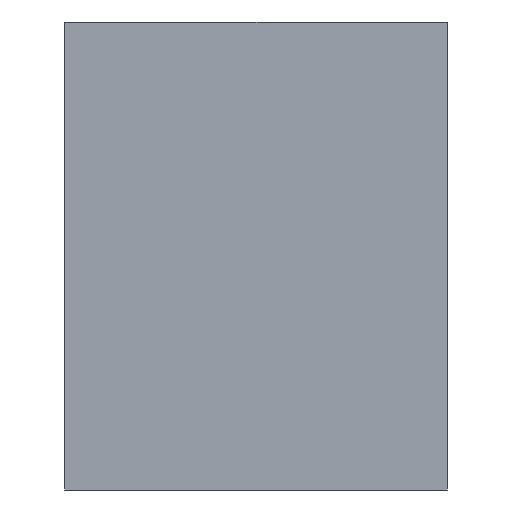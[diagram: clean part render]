
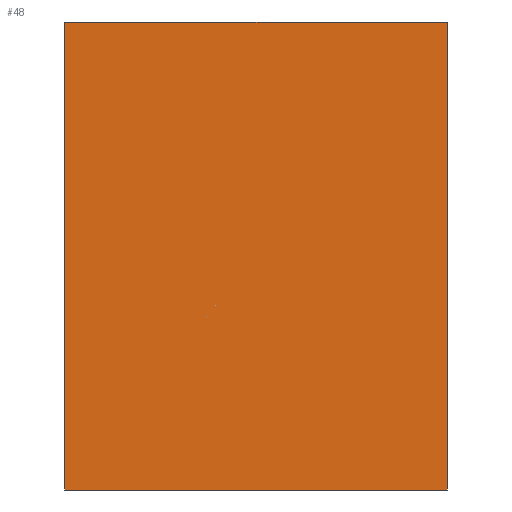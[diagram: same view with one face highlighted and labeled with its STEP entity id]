
A CAD part, left-side view. The second image highlights one B-rep face of the part: STEP entity #48.
In plain terms, the highlighted planar face has unit normal (-1, 0, 0).
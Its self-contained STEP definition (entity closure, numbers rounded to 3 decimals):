
#48=ADVANCED_FACE('',(#83),#538,.T.);
#83=FACE_OUTER_BOUND('',#122,.T.);
#122=EDGE_LOOP('',(#262,#263,#264,#265));
#262=ORIENTED_EDGE('',*,*,#368,.T.);
#263=ORIENTED_EDGE('',*,*,#361,.T.);
#264=ORIENTED_EDGE('',*,*,#369,.F.);
#265=ORIENTED_EDGE('',*,*,#366,.F.);
#361=EDGE_CURVE('',#506,#509,#410,.T.);
#366=EDGE_CURVE('',#512,#513,#415,.T.);
#368=EDGE_CURVE('',#512,#506,#417,.T.);
#369=EDGE_CURVE('',#513,#509,#418,.T.);
#410=B_SPLINE_CURVE_WITH_KNOTS('',1,(#1001,#1002),.UNSPECIFIED.,.F.,.F.,
(2,2),(0.,100.),.UNSPECIFIED.);
#415=B_SPLINE_CURVE_WITH_KNOTS('',1,(#1011,#1012),.UNSPECIFIED.,.F.,.F.,
(2,2),(0.,100.),.UNSPECIFIED.);
#417=B_SPLINE_CURVE_WITH_KNOTS('',1,(#1015,#1016),.UNSPECIFIED.,.F.,.F.,
(2,2),(-45.,0.),.UNSPECIFIED.);
#418=B_SPLINE_CURVE_WITH_KNOTS('',1,(#1017,#1018),.UNSPECIFIED.,.F.,.F.,
(2,2),(-45.,0.),.UNSPECIFIED.);
#506=VERTEX_POINT('',#808);
#509=VERTEX_POINT('',#811);
#512=VERTEX_POINT('',#814);
#513=VERTEX_POINT('',#815);
#538=PLANE('',#593);
#593=AXIS2_PLACEMENT_3D('',#725,#615,$);
#615=DIRECTION('',(-1.,0.,0.));
#725=CARTESIAN_POINT('',(2784.265,480.399,47.24));
#808=CARTESIAN_POINT('',(2784.265,525.399,47.24));
#811=CARTESIAN_POINT('',(2784.265,525.399,-7.76));
#814=CARTESIAN_POINT('',(2784.265,480.399,47.24));
#815=CARTESIAN_POINT('',(2784.265,480.399,-7.76));
#1001=CARTESIAN_POINT('',(2784.265,525.399,47.24));
#1002=CARTESIAN_POINT('',(2784.265,525.399,-7.76));
#1011=CARTESIAN_POINT('',(2784.265,480.399,47.24));
#1012=CARTESIAN_POINT('',(2784.265,480.399,-7.76));
#1015=CARTESIAN_POINT('',(2784.265,480.399,47.24));
#1016=CARTESIAN_POINT('',(2784.265,525.399,47.24));
#1017=CARTESIAN_POINT('',(2784.265,480.399,-7.76));
#1018=CARTESIAN_POINT('',(2784.265,525.399,-7.76));
